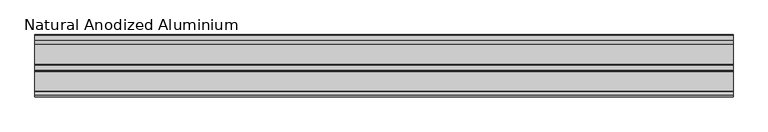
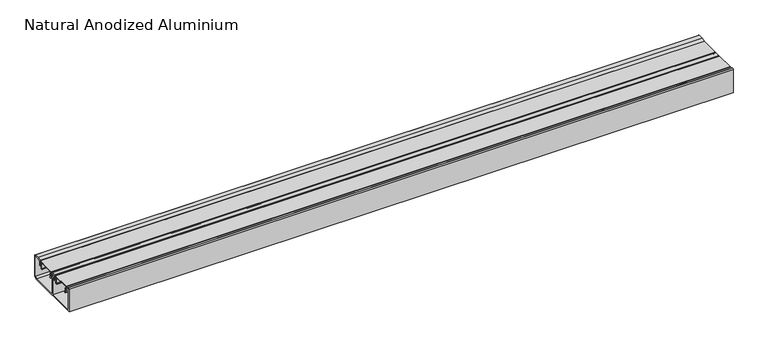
"""IFC4 building model written with IfcOpenShell, lengths in millimetres: proxy geometry, Electrical_Installations_Hager_GBA-Flat-Lid-End-Cap : Natural Anodized Aluminium."""

from ifc_helpers import new_model, si_unit, point, frame, frame_2d, origin, place, context, project, spatial, polyline, circle_curve, trimmed, segment, composite_curve, outline, extrude, source, transform, mapped, element, save


def natural_anodized_aluminium_039d2869(model_context):
    return source(origin(), model_context, "Body", "SweptSolid", [
        extrude(outline(composite_curve([segment(polyline([(-64.6976563, 54.0894343), (-64.6976563, 2.0), (-2.2476563, 2.0), (-2.2476563, 38.3324137), (-0.2476563, 49.6749773), (-0.2476563, 52.0), (-9.8476563, 52.0), (-9.8476563, 41.5012147), (-14.5382813, 41.5012147), (-14.5382813, 45.748101), (-13.5382813, 45.748101), (-13.5382813, 42.9887147), (-11.6476563, 42.9887147), (-11.6476563, 53.0031102)]), True, "CONTINUOUS"), segment(trimmed(circle_curve(frame_2d((-10.6507665, 53.0031102)), 0.9968898), [point((-11.6476563, 53.0031102))], [point((-10.6507665, 54.0))], False, "CARTESIAN"), True, "CONTINUOUS"), segment(polyline([(-10.6507665, 54.0), (0.7441474, 54.0)]), True, "CONTINUOUS"), segment(trimmed(circle_curve(frame_2d((0.7441474, 52.9918037)), 1.0081963), [point((0.7441474, 54.0))], [point((1.7523437, 52.9918037))], False, "CARTESIAN"), True, "CONTINUOUS"), segment(polyline([(1.7523437, 52.9918037), (1.7523437, 49.5), (0.6591165, 43.3), (3.2523437, 43.3), (3.2523437, 45.7537431), (4.2523437, 45.7537431), (4.2523437, 41.5), (0.3417279, 41.5), (-0.2476563, 38.1574364), (-0.2476563, 2.0), (60.5496526, 2.0), (64.5023437, 5.9526912), (64.5023437, 54.2), (54.8614746, 54.2), (48.5523437, 52.1500391), (48.5523437, 41.5), (44.2523437, 41.5), (44.2523437, 45.7556921), (45.2523437, 45.7556921), (45.2523437, 42.9887147), (46.7523437, 42.9887147), (46.7523437, 53.9835468), (54.4971904, 56.5), (64.8989144, 56.5)]), True, "CONTINUOUS"), segment(trimmed(circle_curve(frame_2d((64.8989144, 54.5965707)), 1.9034293), [point((64.8989144, 56.5))], [point((66.8023437, 54.5965707))], False, "CARTESIAN"), True, "CONTINUOUS"), segment(polyline([(66.8023437, 54.5965707), (66.8023437, 5.0), (61.8023437, 0.0), (-66.9976563, 0.0), (-66.9976563, 54.4045249)]), True, "CONTINUOUS"), segment(trimmed(circle_curve(frame_2d((-64.9278927, 54.4045249)), 2.0697636), [point((-66.9976563, 54.4045249))], [point((-64.2989994, 56.3764312))], False, "CARTESIAN"), True, "CONTINUOUS"), segment(polyline([(-64.2989994, 56.3764312), (-56.8429688, 53.998505), (-56.8429688, 42.9887147), (-54.6789063, 42.9887147), (-54.6789063, 45.7565885), (-53.6789063, 45.7565885), (-53.6789063, 41.5012147), (-58.4476563, 41.5012147), (-58.4476563, 52.0961433), (-64.6976563, 54.0894343)]), True, "CONTINUOUS")], self_intersect=False)), frame((0.0, 0.0, 0.0), z_axis=(1.0, 0.0, 0.0), x_axis=(0.0, 1.0, 0.0)), (0.0, 0.0, 1.0), 1501.0),
        extrude(outline(composite_curve([segment(polyline([(-13.1613464, 52.5816445), (-55.0613464, 52.5816445), (-55.0613464, 49.2816445), (-53.7229555, 49.2816445)]), True, "CONTINUOUS"), segment(trimmed(circle_curve(frame_2d((-53.7229555, 47.1700354)), 2.1116091), [point((-53.7229555, 49.2816445))], [point((-51.6113464, 47.1700354))], False, "CARTESIAN"), True, "CONTINUOUS"), segment(polyline([(-51.6113464, 47.1700354), (-51.6113464, 37.6816445), (-49.7113464, 37.6816445), (-49.7113464, 36.8816445), (-52.6113464, 36.8816445), (-52.6113464, 47.3262929)]), True, "CONTINUOUS"), segment(trimmed(circle_curve(frame_2d((-53.566698, 47.3262929)), 0.9553516), [point((-52.6113464, 47.3262929))], [point((-53.566698, 48.2816445))], True, "CARTESIAN"), True, "CONTINUOUS"), segment(polyline([(-53.566698, 48.2816445), (-55.3644879, 48.2816445), (-55.3644879, 43.8012242), (-56.3660339, 43.8012242), (-56.3660339, 53.0900381)]), True, "CONTINUOUS"), segment(trimmed(circle_curve(frame_2d((-55.456072, 53.0900381)), 0.9099619), [point((-56.3660339, 53.0900381))], [point((-55.456072, 54.0))], False, "CARTESIAN"), True, "CONTINUOUS"), segment(polyline([(-55.456072, 54.0), (-12.9820268, 54.0)]), True, "CONTINUOUS"), segment(trimmed(circle_curve(frame_2d((-12.9820268, 52.9918196)), 1.0081804), [point((-12.9820268, 54.0))], [point((-11.9738464, 52.9918196))], False, "CARTESIAN"), True, "CONTINUOUS"), segment(polyline([(-11.9738464, 52.9918196), (-11.9738464, 43.8012242), (-12.858205, 43.8012242), (-12.858205, 48.2816445), (-14.6025892, 48.2816445)]), True, "CONTINUOUS"), segment(trimmed(circle_curve(frame_2d((-14.6025892, 47.2728873)), 1.0087572), [point((-14.6025892, 48.2816445))], [point((-15.6113464, 47.2728873))], True, "CARTESIAN"), True, "CONTINUOUS"), segment(polyline([(-15.6113464, 47.2728873), (-15.6113464, 36.8816445), (-18.5113464, 36.8816445), (-18.5113464, 37.6816445), (-16.6113464, 37.6816445), (-16.6113464, 47.3197896)]), True, "CONTINUOUS"), segment(trimmed(circle_curve(frame_2d((-14.6494915, 47.3197896)), 1.9618549), [point((-16.6113464, 47.3197896))], [point((-14.6494915, 49.2816445))], False, "CARTESIAN"), True, "CONTINUOUS"), segment(polyline([(-14.6494915, 49.2816445), (-13.1613464, 49.2816445), (-13.1613464, 52.5816445)]), True, "CONTINUOUS")], self_intersect=False)), frame((0.0, 0.0, 0.0), z_axis=(1.0, 0.0, 0.0), x_axis=(0.0, 1.0, 0.0)), (0.0, 0.0, 1.0), 1501.0),
        extrude(outline(composite_curve([segment(polyline([(45.1923672, 52.5816445), (3.2923672, 52.5816445), (3.2923672, 49.2816445), (4.6307581, 49.2816445)]), True, "CONTINUOUS"), segment(trimmed(circle_curve(frame_2d((4.6307581, 47.1700354)), 2.1116091), [point((4.6307581, 49.2816445))], [point((6.7423672, 47.1700354))], False, "CARTESIAN"), True, "CONTINUOUS"), segment(polyline([(6.7423672, 47.1700354), (6.7423672, 37.6816445), (8.6423672, 37.6816445), (8.6423672, 36.8816445), (5.7423672, 36.8816445), (5.7423672, 47.3262929)]), True, "CONTINUOUS"), segment(trimmed(circle_curve(frame_2d((4.7870156, 47.3262929)), 0.9553516), [point((5.7423672, 47.3262929))], [point((4.7870156, 48.2816445))], True, "CARTESIAN"), True, "CONTINUOUS"), segment(polyline([(4.7870156, 48.2816445), (2.9892258, 48.2816445), (2.9892258, 43.8231023), (1.9876797, 43.8231023), (1.9876797, 53.0900381)]), True, "CONTINUOUS"), segment(trimmed(circle_curve(frame_2d((2.8976417, 53.0900381)), 0.9099619), [point((1.9876797, 53.0900381))], [point((2.8976417, 54.0))], False, "CARTESIAN"), True, "CONTINUOUS"), segment(polyline([(2.8976417, 54.0), (45.3716869, 54.0)]), True, "CONTINUOUS"), segment(trimmed(circle_curve(frame_2d((45.3716869, 52.9918196)), 1.0081804), [point((45.3716869, 54.0))], [point((46.3798672, 52.9918196))], False, "CARTESIAN"), True, "CONTINUOUS"), segment(polyline([(46.3798672, 52.9918196), (46.3798672, 43.9733035), (45.4955087, 43.9733035), (45.4955087, 48.2816445), (43.7511244, 48.2816445)]), True, "CONTINUOUS"), segment(trimmed(circle_curve(frame_2d((43.7511244, 47.2728873)), 1.0087572), [point((43.7511244, 48.2816445))], [point((42.7423672, 47.2728873))], True, "CARTESIAN"), True, "CONTINUOUS"), segment(polyline([(42.7423672, 47.2728873), (42.7423672, 36.8816445), (39.8423672, 36.8816445), (39.8423672, 37.6816445), (41.7423672, 37.6816445), (41.7423672, 47.3197896)]), True, "CONTINUOUS"), segment(trimmed(circle_curve(frame_2d((43.7042221, 47.3197896)), 1.9618549), [point((41.7423672, 47.3197896))], [point((43.7042221, 49.2816445))], False, "CARTESIAN"), True, "CONTINUOUS"), segment(polyline([(43.7042221, 49.2816445), (45.1923672, 49.2816445), (45.1923672, 52.5816445)]), True, "CONTINUOUS")], self_intersect=False)), frame((0.0, 0.0, 0.0), z_axis=(1.0, 0.0, 0.0), x_axis=(0.0, 1.0, 0.0)), (0.0, 0.0, 1.0), 1501.0),
    ])


if __name__ == "__main__":
    model = new_model("IFC4")
    model_context = context("Model", 3, world=origin())
    ifc_project = project(units=[si_unit("LENGTHUNIT", "METRE", prefix="MILLI")], contexts=[model_context])
    site = spatial("IfcSite", under=ifc_project)
    building = spatial("IfcBuilding", under=site)
    placement = place(None, origin())
    natural_anodized_aluminium_shape = natural_anodized_aluminium_039d2869(model_context)
    element("IfcBuildingElementProxy", 1, Name="Electrical_Installations_Hager_GBA-Flat-Lid-End-Cap : Natural Anodized Aluminium", ObjectType="Electrical_Installations_Hager_GBA-Flat-Lid-End-Cap : Natural Anodized Aluminium", at=placement, inside=building, context=model_context, shape_type="MappedRepresentation", body=[
        mapped(natural_anodized_aluminium_shape, transform((0.0, 0.0, 0.0), x_axis=(1.0, 0.0, 0.0), y_axis=(0.0, 1.0, 0.0), z_axis=(0.0, 0.0, 1.0))),
    ])
    save(model, "model.ifc")
